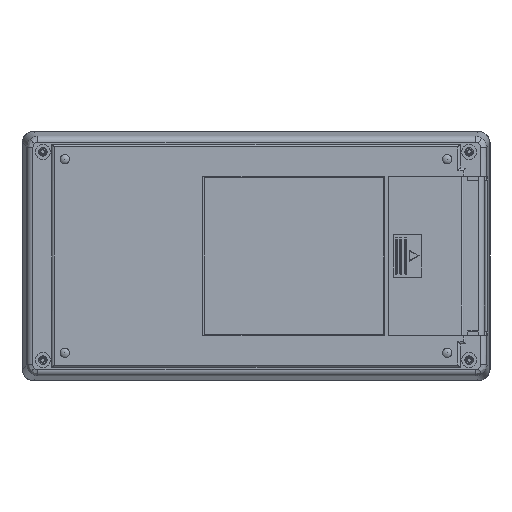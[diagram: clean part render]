
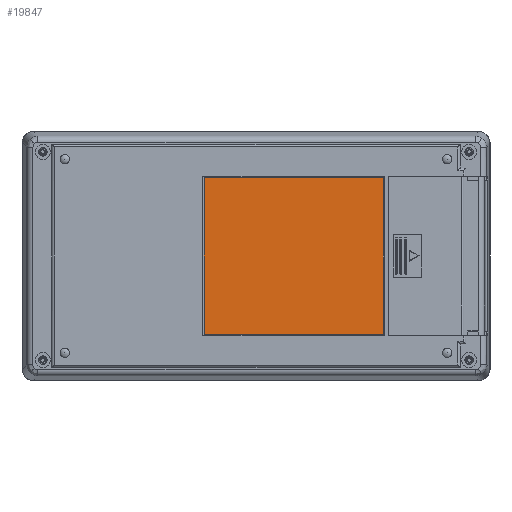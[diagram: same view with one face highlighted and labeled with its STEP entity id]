
A CAD part, front view. The second image highlights one B-rep face of the part: STEP entity #19847.
In plain terms, the highlighted planar face has unit normal (0, -1, 0).
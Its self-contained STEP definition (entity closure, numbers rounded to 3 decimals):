
#797 = EDGE_CURVE ( 'NONE', #16191, #20713, #17577, .T. ) ;
#1325 = CARTESIAN_POINT ( 'NONE',  ( 52., -14.3, -32. ) ) ;
#2969 = VERTEX_POINT ( 'NONE', #17025 ) ;
#3140 = EDGE_CURVE ( 'NONE', #2969, #17284, #5401, .T. ) ;
#3426 = LINE ( 'NONE', #1325, #21582 ) ;
#3580 = CARTESIAN_POINT ( 'NONE',  ( -21.2, -14.3, -32. ) ) ;
#4578 = EDGE_CURVE ( 'NONE', #20713, #2969, #13216, .T. ) ;
#4844 = VECTOR ( 'NONE', #12182, 1000. ) ;
#5401 = LINE ( 'NONE', #13939, #4844 ) ;
#6188 = CARTESIAN_POINT ( 'NONE',  ( 52., -14.3, -32. ) ) ;
#6318 = DIRECTION ( 'NONE',  ( 0., 0., -1. ) ) ;
#7116 = EDGE_LOOP ( 'NONE', ( #19604, #12599, #17627, #12024 ) ) ;
#7317 = CARTESIAN_POINT ( 'NONE',  ( 52., -14.3, 32. ) ) ;
#8294 = CARTESIAN_POINT ( 'NONE',  ( 52., -14.3, 32. ) ) ;
#9778 = PLANE ( 'NONE',  #13982 ) ;
#10044 = DIRECTION ( 'NONE',  ( -1., 0., 0. ) ) ;
#12024 = ORIENTED_EDGE ( 'NONE', *, *, #3140, .T. ) ;
#12182 = DIRECTION ( 'NONE',  ( 0., 0., -1. ) ) ;
#12599 = ORIENTED_EDGE ( 'NONE', *, *, #797, .T. ) ;
#13216 = LINE ( 'NONE', #8294, #17373 ) ;
#13595 = DIRECTION ( 'NONE',  ( 1., 0., 0. ) ) ;
#13939 = CARTESIAN_POINT ( 'NONE',  ( -21.2, -14.3, 32. ) ) ;
#13982 = AXIS2_PLACEMENT_3D ( 'NONE', #16826, #22091, #6318 ) ;
#14260 = FACE_OUTER_BOUND ( 'NONE', #7116, .T. ) ;
#15235 = DIRECTION ( 'NONE',  ( 0., 0., 1. ) ) ;
#16191 = VERTEX_POINT ( 'NONE', #6188 ) ;
#16826 = CARTESIAN_POINT ( 'NONE',  ( -95.3, -14.3, -50.7 ) ) ;
#17021 = VECTOR ( 'NONE', #15235, 1000. ) ;
#17025 = CARTESIAN_POINT ( 'NONE',  ( -21.2, -14.3, 32. ) ) ;
#17284 = VERTEX_POINT ( 'NONE', #3580 ) ;
#17373 = VECTOR ( 'NONE', #10044, 1000. ) ;
#17577 = LINE ( 'NONE', #20509, #17021 ) ;
#17627 = ORIENTED_EDGE ( 'NONE', *, *, #4578, .T. ) ;
#19604 = ORIENTED_EDGE ( 'NONE', *, *, #21301, .T. ) ;
#19847 = ADVANCED_FACE ( 'NONE', ( #14260 ), #9778, .T. ) ;
#20509 = CARTESIAN_POINT ( 'NONE',  ( 52., -14.3, 32. ) ) ;
#20713 = VERTEX_POINT ( 'NONE', #7317 ) ;
#21301 = EDGE_CURVE ( 'NONE', #17284, #16191, #3426, .T. ) ;
#21582 = VECTOR ( 'NONE', #13595, 1000. ) ;
#22091 = DIRECTION ( 'NONE',  ( 0., -1., 0. ) ) ;
